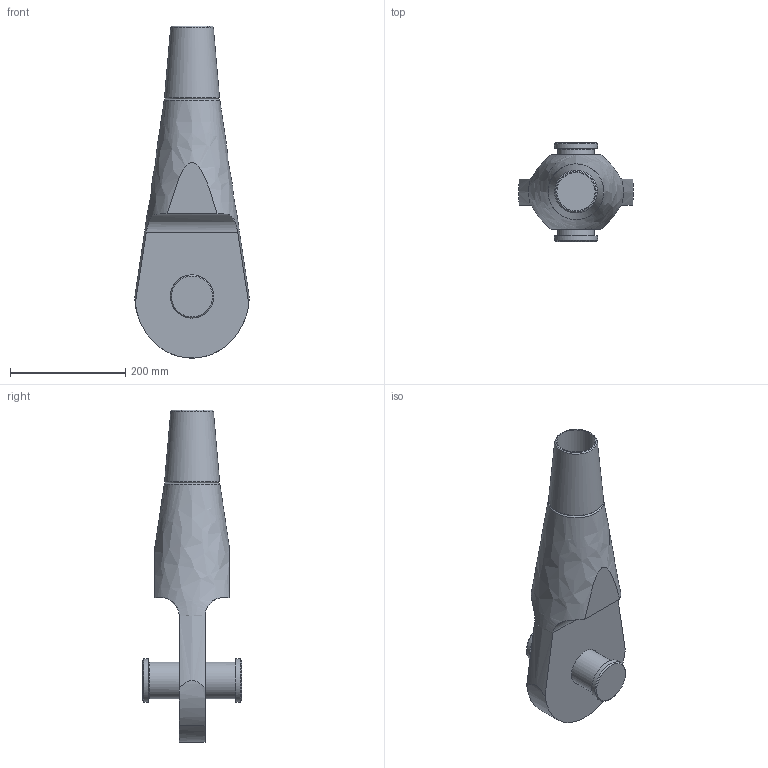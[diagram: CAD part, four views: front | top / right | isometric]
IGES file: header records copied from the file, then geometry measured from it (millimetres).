
Global section: file name: 520-064-OES; native system: Autodesk Inventor 2016; preprocessor: unknown; author: Administrator; date: 20200626.103750; units: centimetre
Bounding box: 198.52 x 172.3 x 576.89 mm (x, y, z)
Volume: 5219505.8 mm3; surface area: 305996.7 mm2
Topology: 2 solids, 4 shells, 49 faces, 120 edges, 82 vertices
Faces by surface type: bspline 49
